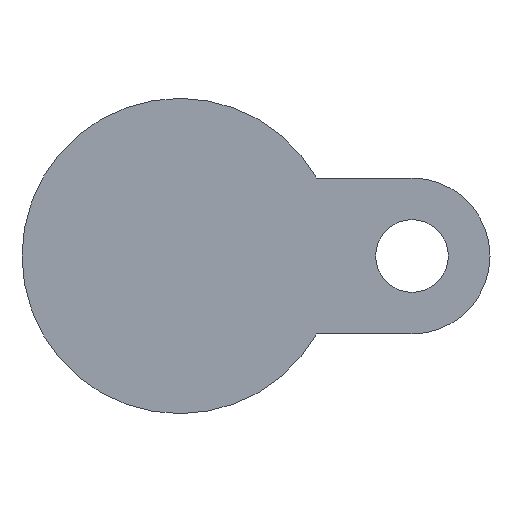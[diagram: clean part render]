
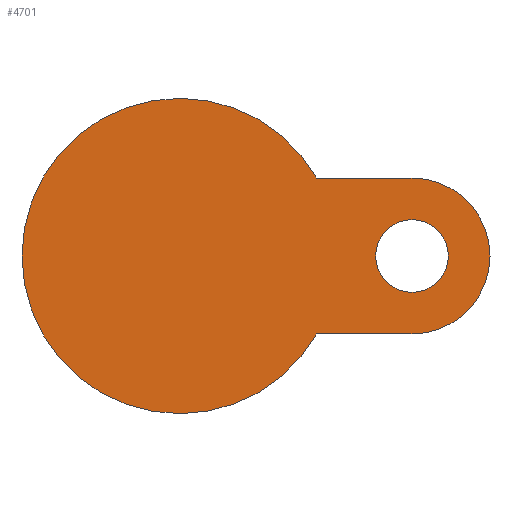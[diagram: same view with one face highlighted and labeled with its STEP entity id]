
A CAD part, front view. The second image highlights one B-rep face of the part: STEP entity #4701.
In plain terms, the highlighted planar face has unit normal (0, -1, 0).
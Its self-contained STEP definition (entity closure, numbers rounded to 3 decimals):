
#28 = PLANE ( 'NONE',  #684 ) ;
#163 = CARTESIAN_POINT ( 'NONE',  ( 33.024, -17., 18.8 ) ) ;
#269 = EDGE_CURVE ( 'NONE', #1431, #3770, #3198, .T. ) ;
#290 = CARTESIAN_POINT ( 'NONE',  ( 0., -17., 0. ) ) ;
#476 = FACE_OUTER_BOUND ( 'NONE', #2179, .T. ) ;
#576 = LINE ( 'NONE', #3594, #2698 ) ;
#589 = CIRCLE ( 'NONE', #3627, 18.8 ) ;
#601 = CARTESIAN_POINT ( 'NONE',  ( 56., -17., 0. ) ) ;
#678 = AXIS2_PLACEMENT_3D ( 'NONE', #601, #933, #5325 ) ;
#684 = AXIS2_PLACEMENT_3D ( 'NONE', #5064, #4301, #2172 ) ;
#693 = DIRECTION ( 'NONE',  ( 1., 0., 0. ) ) ;
#701 = AXIS2_PLACEMENT_3D ( 'NONE', #3964, #1355, #5279 ) ;
#765 = ORIENTED_EDGE ( 'NONE', *, *, #3878, .T. ) ;
#784 = CARTESIAN_POINT ( 'NONE',  ( 56., -17., 0. ) ) ;
#916 = VECTOR ( 'NONE', #3163, 1000. ) ;
#933 = DIRECTION ( 'NONE',  ( 0., -1., 0. ) ) ;
#1104 = CARTESIAN_POINT ( 'NONE',  ( 56., -17., 0. ) ) ;
#1192 = DIRECTION ( 'NONE',  ( 1., 0., 0. ) ) ;
#1262 = CARTESIAN_POINT ( 'NONE',  ( 56., -17., 18.8 ) ) ;
#1333 = ORIENTED_EDGE ( 'NONE', *, *, #4040, .T. ) ;
#1355 = DIRECTION ( 'NONE',  ( 0., 1., 0. ) ) ;
#1431 = VERTEX_POINT ( 'NONE', #4009 ) ;
#1452 = AXIS2_PLACEMENT_3D ( 'NONE', #3657, #2757, #2783 ) ;
#1789 = VERTEX_POINT ( 'NONE', #5522 ) ;
#1798 = CARTESIAN_POINT ( 'NONE',  ( 64.75, -17., 0. ) ) ;
#1877 = EDGE_CURVE ( 'NONE', #5295, #5028, #2690, .T. ) ;
#2103 = CIRCLE ( 'NONE', #4433, 38. ) ;
#2172 = DIRECTION ( 'NONE',  ( 1., 0., 0. ) ) ;
#2179 = EDGE_LOOP ( 'NONE', ( #3427, #3987, #765, #1333, #2829, #3477 ) ) ;
#2544 = FACE_BOUND ( 'NONE', #3504, .T. ) ;
#2690 = LINE ( 'NONE', #5263, #916 ) ;
#2698 = VECTOR ( 'NONE', #4850, 1000. ) ;
#2757 = DIRECTION ( 'NONE',  ( 0., -1., 0. ) ) ;
#2783 = DIRECTION ( 'NONE',  ( 1., 0., 0. ) ) ;
#2815 = DIRECTION ( 'NONE',  ( 0., -1., 0. ) ) ;
#2827 = VERTEX_POINT ( 'NONE', #1798 ) ;
#2829 = ORIENTED_EDGE ( 'NONE', *, *, #1877, .T. ) ;
#3079 = VERTEX_POINT ( 'NONE', #5161 ) ;
#3089 = CARTESIAN_POINT ( 'NONE',  ( -38., -17., 0. ) ) ;
#3163 = DIRECTION ( 'NONE',  ( -1., 0., 0. ) ) ;
#3198 = CIRCLE ( 'NONE', #701, 38. ) ;
#3249 = DIRECTION ( 'NONE',  ( 0., 1., 0. ) ) ;
#3427 = ORIENTED_EDGE ( 'NONE', *, *, #269, .F. ) ;
#3477 = ORIENTED_EDGE ( 'NONE', *, *, #4249, .F. ) ;
#3504 = EDGE_LOOP ( 'NONE', ( #5368, #4925 ) ) ;
#3594 = CARTESIAN_POINT ( 'NONE',  ( 56., -17., -18.8 ) ) ;
#3627 = AXIS2_PLACEMENT_3D ( 'NONE', #1104, #2815, #693 ) ;
#3657 = CARTESIAN_POINT ( 'NONE',  ( 56., -17., 0. ) ) ;
#3714 = EDGE_CURVE ( 'NONE', #3079, #2827, #4667, .T. ) ;
#3770 = VERTEX_POINT ( 'NONE', #3089 ) ;
#3773 = AXIS2_PLACEMENT_3D ( 'NONE', #784, #5488, #1192 ) ;
#3866 = VERTEX_POINT ( 'NONE', #4405 ) ;
#3871 = EDGE_CURVE ( 'NONE', #1431, #1789, #576, .T. ) ;
#3878 = EDGE_CURVE ( 'NONE', #1789, #3866, #5143, .T. ) ;
#3964 = CARTESIAN_POINT ( 'NONE',  ( 0., -17., 0. ) ) ;
#3987 = ORIENTED_EDGE ( 'NONE', *, *, #3871, .T. ) ;
#4009 = CARTESIAN_POINT ( 'NONE',  ( 33.024, -17., -18.8 ) ) ;
#4040 = EDGE_CURVE ( 'NONE', #3866, #5295, #589, .T. ) ;
#4249 = EDGE_CURVE ( 'NONE', #3770, #5028, #2103, .T. ) ;
#4301 = DIRECTION ( 'NONE',  ( 0., -1., 0. ) ) ;
#4405 = CARTESIAN_POINT ( 'NONE',  ( 74.8, -17., 0. ) ) ;
#4433 = AXIS2_PLACEMENT_3D ( 'NONE', #290, #3249, #4959 ) ;
#4667 = CIRCLE ( 'NONE', #3773, 8.75 ) ;
#4701 = ADVANCED_FACE ( 'NONE', ( #476, #2544 ), #28, .T. ) ;
#4850 = DIRECTION ( 'NONE',  ( 1., 0., 0. ) ) ;
#4859 = CIRCLE ( 'NONE', #1452, 8.75 ) ;
#4925 = ORIENTED_EDGE ( 'NONE', *, *, #3714, .F. ) ;
#4959 = DIRECTION ( 'NONE',  ( -1., 0., 0. ) ) ;
#5028 = VERTEX_POINT ( 'NONE', #163 ) ;
#5064 = CARTESIAN_POINT ( 'NONE',  ( 0., -17., 0. ) ) ;
#5143 = CIRCLE ( 'NONE', #678, 18.8 ) ;
#5161 = CARTESIAN_POINT ( 'NONE',  ( 47.25, -17., 0. ) ) ;
#5214 = EDGE_CURVE ( 'NONE', #2827, #3079, #4859, .T. ) ;
#5263 = CARTESIAN_POINT ( 'NONE',  ( 20.593, -17., 18.8 ) ) ;
#5279 = DIRECTION ( 'NONE',  ( -1., 0., 0. ) ) ;
#5295 = VERTEX_POINT ( 'NONE', #1262 ) ;
#5325 = DIRECTION ( 'NONE',  ( 1., 0., 0. ) ) ;
#5368 = ORIENTED_EDGE ( 'NONE', *, *, #5214, .F. ) ;
#5488 = DIRECTION ( 'NONE',  ( 0., -1., 0. ) ) ;
#5522 = CARTESIAN_POINT ( 'NONE',  ( 56., -17., -18.8 ) ) ;
